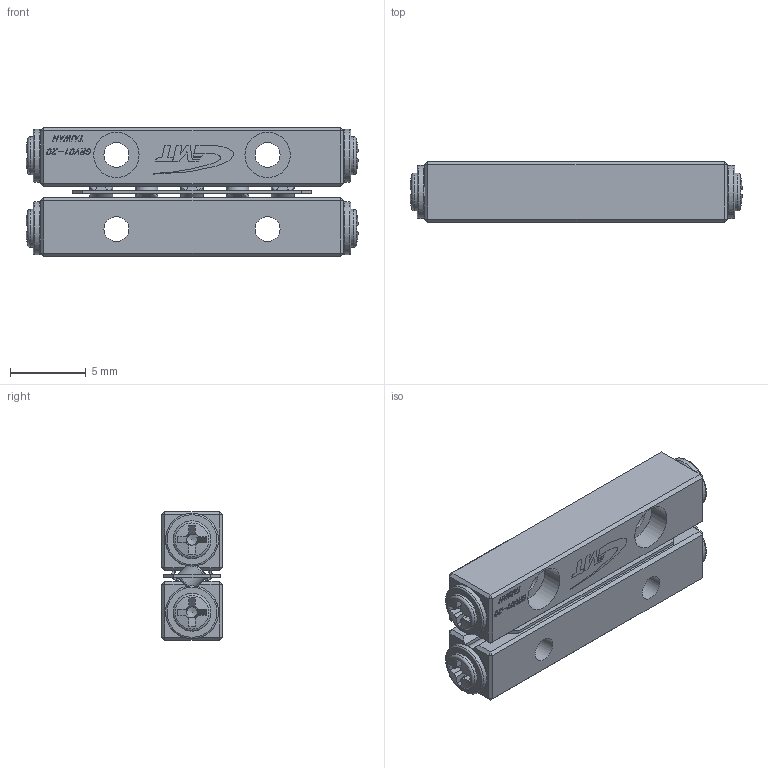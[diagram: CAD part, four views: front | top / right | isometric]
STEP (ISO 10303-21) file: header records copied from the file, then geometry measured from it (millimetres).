
FILE_DESCRIPTION (( 'STEP AP203' ), '1' );
FILE_NAME ('GRV01-20.STEP', '2023-07-20T08:14:31', ( '' ), ( '' ), 'SwSTEP 2.0', 'SolidWorks 2019', '' );
FILE_SCHEMA (( 'CONFIG_CONTROL_DESIGN' ));
Length unit declared in the file: millimetre
Products named in the file (3): GRV01-20; GRV01-20-模糊化軌道; GRV01-20-模糊化保持器組
Assembly tree (3 placements, depth 2):
  GRV01-20
    GRV01-20-模糊化軌道  x2
    GRV01-20-模糊化保持器組
Bounding box: 21.96 x 4 x 8.5 mm (x, y, z)
Volume: 562.5 mm3; surface area: 1054.2 mm2
Topology: 3 solids, 7 shells, 1186 faces, 3164 edges, 2064 vertices
Faces by surface type: plane 822, bspline 226, cylinder 72, cone 40, torus 22, sphere 4
Full cylindrical faces by diameter (mm): 1.3 x4, 1.65 x4, 2.5 x4, 3 x4, 3.5 x4
Entity records: 22290 total; most frequent: CARTESIAN_POINT 6669, ORIENTED_EDGE 3458, DIRECTION 2627, EDGE_CURVE 1729, VECTOR 1203, LINE 1203, VERTEX_POINT 1140, EDGE_LOOP 733
